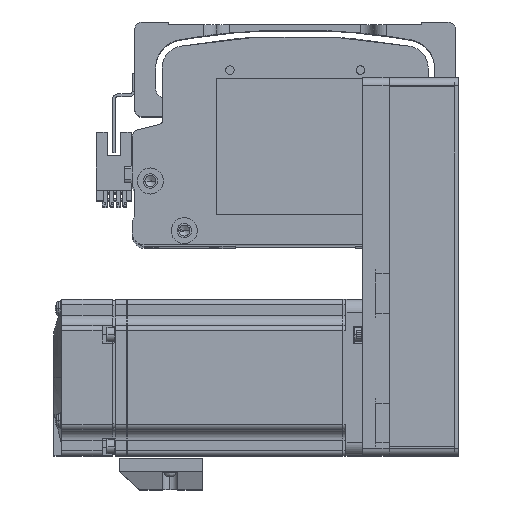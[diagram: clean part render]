
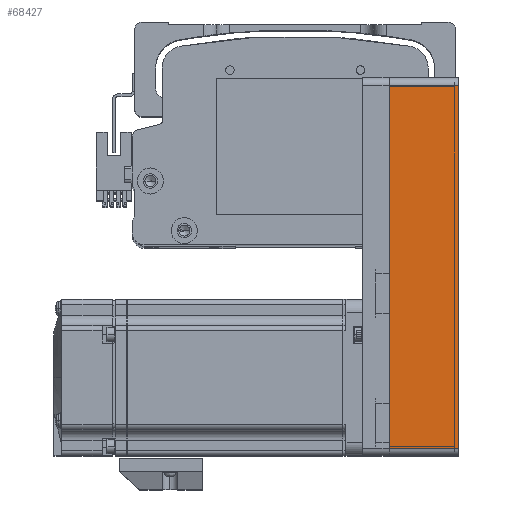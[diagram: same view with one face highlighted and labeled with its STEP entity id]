
A CAD part, top view. The second image highlights one B-rep face of the part: STEP entity #68427.
In plain terms, the highlighted planar face has unit normal (0, 0, 1) as drawn and (0, -1, 0) by its records, which use the part's own axes.
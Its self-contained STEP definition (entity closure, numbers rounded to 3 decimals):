
#4266 = PLANE ( 'NONE',  #24185 ) ;
#5224 = VECTOR ( 'NONE', #25341, 1000. ) ;
#6626 = EDGE_CURVE ( 'NONE', #20692, #80269, #38680, .T. ) ;
#8212 = VERTEX_POINT ( 'NONE', #33212 ) ;
#11954 = LINE ( 'NONE', #59461, #26737 ) ;
#13942 = CARTESIAN_POINT ( 'NONE',  ( -69.5, -30., 26.5 ) ) ;
#14500 = ORIENTED_EDGE ( 'NONE', *, *, #6626, .F. ) ;
#18703 = EDGE_LOOP ( 'NONE', ( #42726, #37087, #14500, #75796 ) ) ;
#20692 = VERTEX_POINT ( 'NONE', #48861 ) ;
#22777 = CARTESIAN_POINT ( 'NONE',  ( -69.5, -30., 0. ) ) ;
#23546 = DIRECTION ( 'NONE',  ( 0., 1., 0. ) ) ;
#24185 = AXIS2_PLACEMENT_3D ( 'NONE', #61235, #23546, #67551 ) ;
#24274 = EDGE_CURVE ( 'NONE', #8212, #80269, #45815, .T. ) ;
#25341 = DIRECTION ( 'NONE',  ( 1., 0., 0. ) ) ;
#26737 = VECTOR ( 'NONE', #53142, 1000. ) ;
#27088 = CARTESIAN_POINT ( 'NONE',  ( 69.5, -30., 26.5 ) ) ;
#28958 = VERTEX_POINT ( 'NONE', #22777 ) ;
#30273 = FACE_OUTER_BOUND ( 'NONE', #18703, .T. ) ;
#33212 = CARTESIAN_POINT ( 'NONE',  ( 69.5, -30., 0. ) ) ;
#35041 = VECTOR ( 'NONE', #70567, 1000. ) ;
#37087 = ORIENTED_EDGE ( 'NONE', *, *, #24274, .T. ) ;
#38680 = LINE ( 'NONE', #63035, #5224 ) ;
#41920 = CARTESIAN_POINT ( 'NONE',  ( 69.5, -30., 26.5 ) ) ;
#42726 = ORIENTED_EDGE ( 'NONE', *, *, #57790, .T. ) ;
#45815 = LINE ( 'NONE', #41920, #77339 ) ;
#48047 = DIRECTION ( 'NONE',  ( 0., 0., 1. ) ) ;
#48861 = CARTESIAN_POINT ( 'NONE',  ( -69.5, -30., 26.5 ) ) ;
#50636 = EDGE_CURVE ( 'NONE', #20692, #28958, #51841, .T. ) ;
#51841 = LINE ( 'NONE', #13942, #35041 ) ;
#53142 = DIRECTION ( 'NONE',  ( 1., 0., 0. ) ) ;
#57790 = EDGE_CURVE ( 'NONE', #28958, #8212, #11954, .T. ) ;
#59461 = CARTESIAN_POINT ( 'NONE',  ( 72.5, -30., 0. ) ) ;
#61235 = CARTESIAN_POINT ( 'NONE',  ( 72.5, -30., 26.5 ) ) ;
#63035 = CARTESIAN_POINT ( 'NONE',  ( 72.5, -30., 26.5 ) ) ;
#67551 = DIRECTION ( 'NONE',  ( -1., 0., 0. ) ) ;
#68427 = ADVANCED_FACE ( 'NONE', ( #30273 ), #4266, .F. ) ;
#70567 = DIRECTION ( 'NONE',  ( 0., 0., -1. ) ) ;
#75796 = ORIENTED_EDGE ( 'NONE', *, *, #50636, .T. ) ;
#77339 = VECTOR ( 'NONE', #48047, 1000. ) ;
#80269 = VERTEX_POINT ( 'NONE', #27088 ) ;
